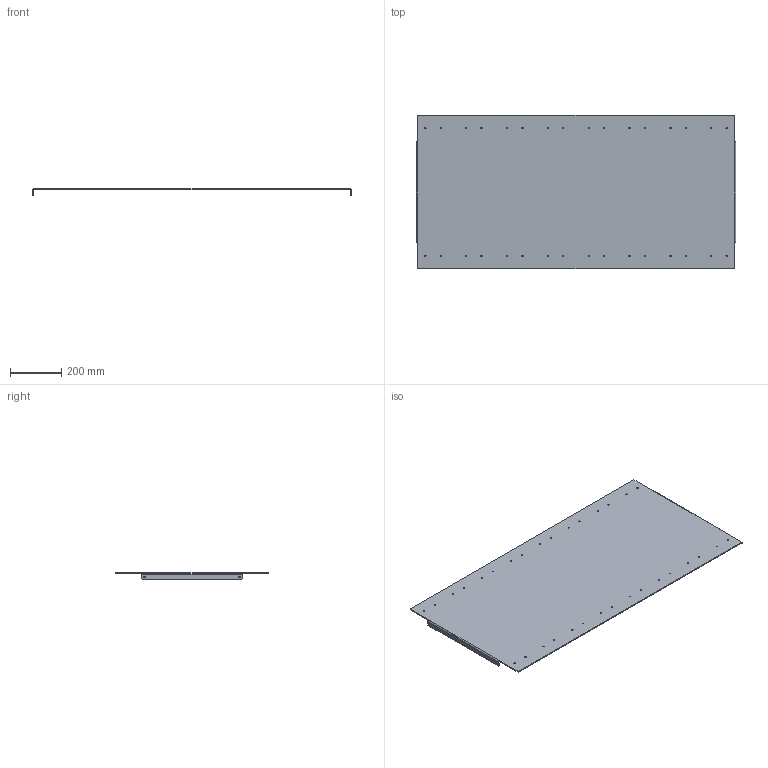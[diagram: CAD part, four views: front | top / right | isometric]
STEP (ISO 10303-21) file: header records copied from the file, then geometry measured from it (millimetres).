
FILE_DESCRIPTION(('HOOPS Exchange Step'),'2;1');
FILE_NAME('/private/var/mobile/Containers/Data/Application/E4481369-A8C6-45C6-A958-B1853E49479D/tmp/export/temp_export','2021-04-12T21:00:52+00:00',('mobile'),('Shapr3D Limited'),'HOOPS Exchange 2020.2','Shapr3D','Authorized');
FILE_SCHEMA( ('AP203_CONFIGURATION_CONTROLLED_3D_DESIGN_OF_MECHANICAL_PARTS_AND_ASSEMBLIES_MIM_LF') );
Length unit declared in the file: millimetre
Products named in the file (2): 0; /private/var/mobile/Containers/Data/Application/E4481369-A8C6-45C6-A958-B1853E49479D/tmp/01D87747-8814-4991-82F1-9A6A374A623D.tmp
Assembly tree (1 placements, depth 2):
  /private/var/mobile/Containers/Data/Application/E4481369-A8C6-45C6-A958-B1853E49479D/tmp/01D87747-8814-4991-82F1-9A6A374A623D.tmp
    0
Bounding box: 1250 x 600 x 24 mm (x, y, z)
Volume: 3047297 mm3; surface area: 1541086.6 mm2
Topology: 1 solids, 1 shells, 66 faces, 224 edges, 160 vertices
Faces by surface type: cylinder 48, plane 18
Full cylindrical faces by diameter (mm): 5.2 x36
Entity records: 2751 total; most frequent: DIRECTION 498, CARTESIAN_POINT 453, ORIENTED_EDGE 448, EDGE_CURVE 224, AXIS2_PLACEMENT_3D 205, VERTEX_POINT 160, EDGE_LOOP 138, FACE_BOUND 138
